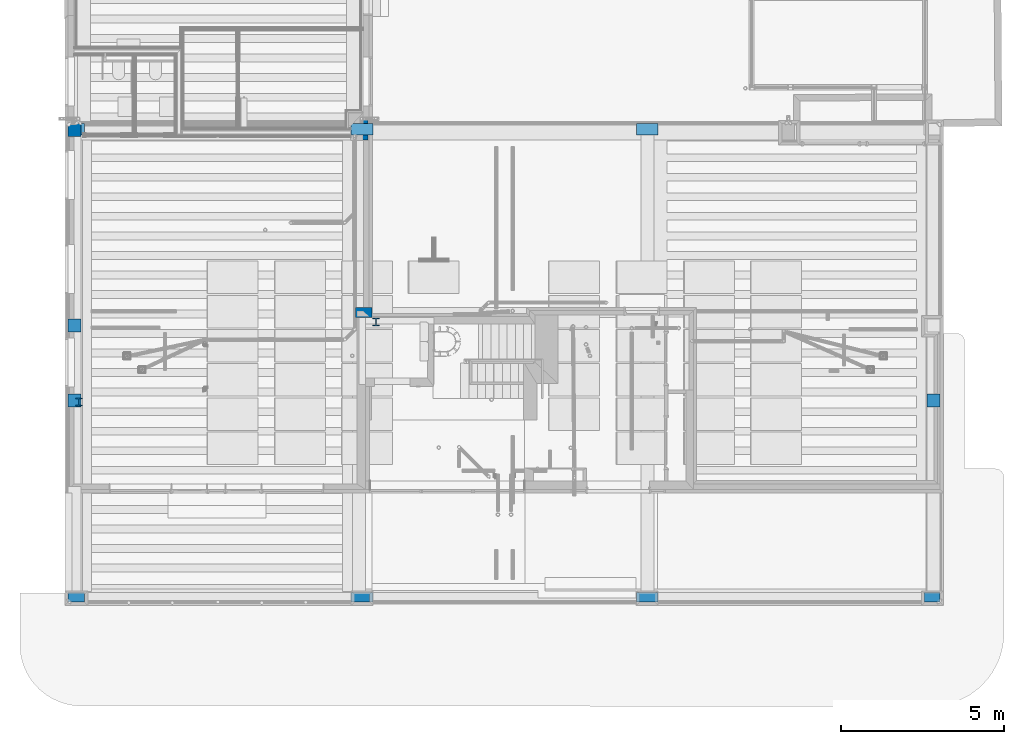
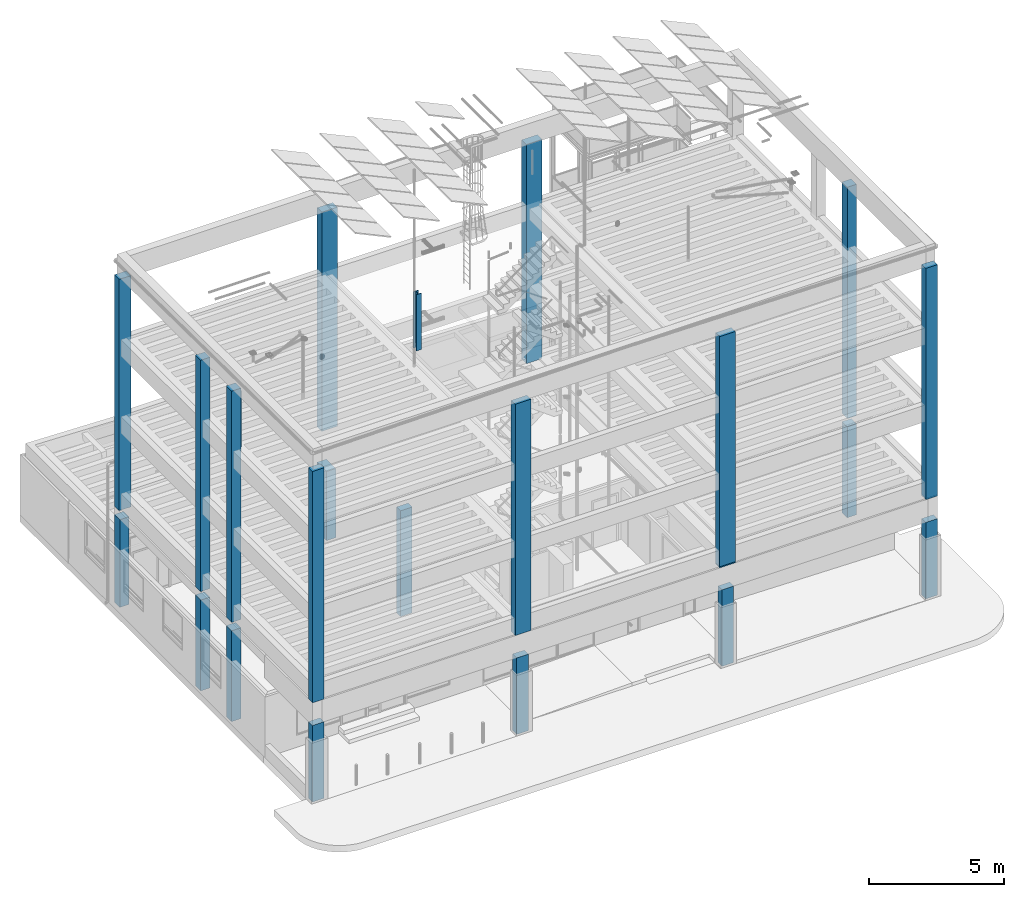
# One storey, part 1 of 108: 24 columns.
"""IFC2X3 building model written with IfcOpenShell, lengths in metres."""

from ifc_helpers import new_model, entity, si_unit, converted_unit, derived_unit, money_unit, direction, frame, frame_2d, origin_with_axes, place, context, subcontext, project, spatial, polyline, rectangle, outline, extrude, material, type_object, element, save


model = new_model("IFC2X3")

# Units and contexts
model_context = context("Model", 3, precision=1e-05, world=origin_with_axes(), true_north=direction((0.0, 1.0)))
body_context = subcontext(model_context, "Body", "Model", "MODEL_VIEW", scale=1.0)
ifc_project = project(units=[si_unit("LENGTHUNIT", "METRE"), si_unit("AREAUNIT", "SQUARE_METRE"), si_unit("VOLUMEUNIT", "CUBIC_METRE"), si_unit("ABSORBEDDOSEUNIT", "GRAY"), si_unit("AMOUNTOFSUBSTANCEUNIT", "MOLE"), si_unit("DOSEEQUIVALENTUNIT", "SIEVERT"), si_unit("ELECTRICCAPACITANCEUNIT", "FARAD"), si_unit("ELECTRICCHARGEUNIT", "COULOMB"), si_unit("ELECTRICCONDUCTANCEUNIT", "SIEMENS"), si_unit("ELECTRICCURRENTUNIT", "AMPERE"), si_unit("ELECTRICRESISTANCEUNIT", "OHM"), si_unit("ELECTRICVOLTAGEUNIT", "VOLT"), si_unit("ENERGYUNIT", "JOULE"), si_unit("FORCEUNIT", "NEWTON"), si_unit("FREQUENCYUNIT", "HERTZ"), si_unit("ILLUMINANCEUNIT", "LUX"), si_unit("INDUCTANCEUNIT", "HENRY"), si_unit("LUMINOUSFLUXUNIT", "LUMEN"), si_unit("LUMINOUSINTENSITYUNIT", "CANDELA"), si_unit("MAGNETICFLUXDENSITYUNIT", "TESLA"), si_unit("MAGNETICFLUXUNIT", "WEBER"), si_unit("MASSUNIT", "GRAM"), converted_unit("PLANEANGLEUNIT", "degree", entity("IfcReal", 0.0174532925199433), si_unit("PLANEANGLEUNIT", "RADIAN"), dimensions=[0, 0, 0, 0, 0, 0, 0]), si_unit("POWERUNIT", "WATT"), si_unit("PRESSUREUNIT", "PASCAL"), si_unit("RADIOACTIVITYUNIT", "BECQUEREL"), si_unit("SOLIDANGLEUNIT", "STERADIAN"), si_unit("THERMODYNAMICTEMPERATUREUNIT", "KELVIN"), si_unit("TIMEUNIT", "SECOND"), derived_unit("ACCELERATIONUNIT", [(si_unit("LENGTHUNIT", "METRE"), 1), (si_unit("TIMEUNIT", "SECOND"), -2)]), derived_unit("ANGULARVELOCITYUNIT", [(converted_unit("PLANEANGLEUNIT", "degree", entity("IfcReal", 0.0174532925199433), si_unit("PLANEANGLEUNIT", "RADIAN"), dimensions=[0, 0, 0, 0, 0, 0, 0]), 1), (si_unit("TIMEUNIT", "SECOND"), -1)]), derived_unit("CURVATUREUNIT", [(converted_unit("PLANEANGLEUNIT", "degree", entity("IfcReal", 0.0174532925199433), si_unit("PLANEANGLEUNIT", "RADIAN"), dimensions=[0, 0, 0, 0, 0, 0, 0]), 1), (si_unit("LENGTHUNIT", "METRE"), -1)]), derived_unit("DYNAMICVISCOSITYUNIT", [(si_unit("PRESSUREUNIT", "PASCAL"), 1), (si_unit("TIMEUNIT", "SECOND"), 1)]), derived_unit("HEATFLUXDENSITYUNIT", [(si_unit("POWERUNIT", "WATT"), 1), (si_unit("LENGTHUNIT", "METRE"), -2)]), derived_unit("HEATINGVALUEUNIT", [(si_unit("ENERGYUNIT", "JOULE"), 1), (si_unit("MASSUNIT", "GRAM"), -1)]), derived_unit("INTEGERCOUNTRATEUNIT", [(si_unit("TIMEUNIT", "SECOND"), -1)]), derived_unit("IONCONCENTRATIONUNIT", [(si_unit("MASSUNIT", "GRAM"), 1), (si_unit("VOLUMEUNIT", "CUBIC_METRE"), -1)]), derived_unit("ISOTHERMALMOISTURECAPACITYUNIT", [(si_unit("VOLUMEUNIT", "CUBIC_METRE"), 1), (si_unit("MASSUNIT", "GRAM"), -1)]), derived_unit("KINEMATICVISCOSITYUNIT", [(si_unit("AREAUNIT", "SQUARE_METRE"), 1), (si_unit("TIMEUNIT", "SECOND"), -1)]), derived_unit("LINEARFORCEUNIT", [(si_unit("FORCEUNIT", "NEWTON"), 1), (si_unit("LENGTHUNIT", "METRE"), -1)]), derived_unit("LINEARMOMENTUNIT", [(si_unit("FORCEUNIT", "NEWTON"), 1), (si_unit("LENGTHUNIT", "METRE"), -1)]), derived_unit("LINEARSTIFFNESSUNIT", [(si_unit("FORCEUNIT", "NEWTON"), 1), (si_unit("LENGTHUNIT", "METRE"), -1)]), derived_unit("LINEARVELOCITYUNIT", [(si_unit("LENGTHUNIT", "METRE"), 1), (si_unit("TIMEUNIT", "SECOND"), -1)]), derived_unit("LUMINOUSINTENSITYDISTRIBUTIONUNIT", [(si_unit("LUMINOUSINTENSITYUNIT", "CANDELA"), 1), (si_unit("LUMINOUSFLUXUNIT", "LUMEN"), -1)]), derived_unit("MASSDENSITYUNIT", [(si_unit("MASSUNIT", "GRAM"), 1), (si_unit("VOLUMEUNIT", "CUBIC_METRE"), -1)]), derived_unit("MASSFLOWRATEUNIT", [(si_unit("MASSUNIT", "GRAM"), 1), (si_unit("TIMEUNIT", "SECOND"), -1)]), derived_unit("MASSPERLENGTHUNIT", [(si_unit("MASSUNIT", "GRAM"), 1), (si_unit("LENGTHUNIT", "METRE"), -1)]), derived_unit("MODULUSOFELASTICITYUNIT", [(si_unit("FORCEUNIT", "NEWTON"), 1), (si_unit("AREAUNIT", "SQUARE_METRE"), -1)]), derived_unit("MODULUSOFLINEARSUBGRADEREACTIONUNIT", [(si_unit("FORCEUNIT", "NEWTON"), 1), (si_unit("LENGTHUNIT", "METRE"), -2)]), derived_unit("MODULUSOFROTATIONALSUBGRADEREACTIONUNIT", [(si_unit("FORCEUNIT", "NEWTON"), 1), (si_unit("LENGTHUNIT", "METRE"), 1)]), derived_unit("MODULUSOFSUBGRADEREACTIONUNIT", [(si_unit("FORCEUNIT", "NEWTON"), 1), (si_unit("VOLUMEUNIT", "CUBIC_METRE"), -1)]), derived_unit("MOISTUREDIFFUSIVITYUNIT", [(si_unit("VOLUMEUNIT", "CUBIC_METRE"), 1), (si_unit("TIMEUNIT", "SECOND"), -1)]), derived_unit("MOLECULARWEIGHTUNIT", [(si_unit("MASSUNIT", "GRAM"), 1), (si_unit("AMOUNTOFSUBSTANCEUNIT", "MOLE"), -1)]), derived_unit("PLANARFORCEUNIT", [(si_unit("FORCEUNIT", "NEWTON"), 1), (si_unit("LENGTHUNIT", "METRE"), -2)]), derived_unit("ROTATIONALFREQUENCYUNIT", [(si_unit("TIMEUNIT", "SECOND"), -1)]), derived_unit("ROTATIONALMASSUNIT", [(si_unit("MASSUNIT", "GRAM"), 1), (si_unit("LENGTHUNIT", "METRE"), 2)]), derived_unit("ROTATIONALSTIFFNESSUNIT", [(si_unit("FORCEUNIT", "NEWTON"), 1), (si_unit("LENGTHUNIT", "METRE"), 1), (converted_unit("PLANEANGLEUNIT", "degree", entity("IfcReal", 0.0174532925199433), si_unit("PLANEANGLEUNIT", "RADIAN"), dimensions=[0, 0, 0, 0, 0, 0, 0]), -1)]), derived_unit("SECTIONAREAINTEGRALUNIT", [(si_unit("LENGTHUNIT", "METRE"), 5)]), derived_unit("SECTIONMODULUSUNIT", [(si_unit("LENGTHUNIT", "METRE"), 3)]), derived_unit("SHEARMODULUSUNIT", [(si_unit("FORCEUNIT", "NEWTON"), 1), (si_unit("AREAUNIT", "SQUARE_METRE"), -1)]), derived_unit("SOUNDPOWERUNIT", [(si_unit("ENERGYUNIT", "JOULE"), 1), (si_unit("TIMEUNIT", "SECOND"), -1)]), derived_unit("SPECIFICHEATCAPACITYUNIT", [(si_unit("FORCEUNIT", "NEWTON"), 1), (si_unit("MASSUNIT", "GRAM"), -1), (si_unit("THERMODYNAMICTEMPERATUREUNIT", "KELVIN"), -1)]), derived_unit("TEMPERATUREGRADIENTUNIT", [(si_unit("THERMODYNAMICTEMPERATUREUNIT", "KELVIN"), 1), (si_unit("LENGTHUNIT", "METRE"), -1)]), derived_unit("THERMALADMITTANCEUNIT", [(si_unit("POWERUNIT", "WATT"), 1), (si_unit("AREAUNIT", "SQUARE_METRE"), -1), (si_unit("THERMODYNAMICTEMPERATUREUNIT", "KELVIN"), -1)]), derived_unit("THERMALCONDUCTANCEUNIT", [(si_unit("POWERUNIT", "WATT"), 1), (si_unit("LENGTHUNIT", "METRE"), -1), (si_unit("THERMODYNAMICTEMPERATUREUNIT", "KELVIN"), -1)]), derived_unit("THERMALEXPANSIONCOEFFICIENTUNIT", [(si_unit("THERMODYNAMICTEMPERATUREUNIT", "KELVIN"), -1)]), derived_unit("THERMALRESISTANCEUNIT", [(si_unit("AREAUNIT", "SQUARE_METRE"), 1), (si_unit("POWERUNIT", "WATT"), -1)]), derived_unit("THERMALTRANSMITTANCEUNIT", [(si_unit("POWERUNIT", "WATT"), 1), (si_unit("AREAUNIT", "SQUARE_METRE"), -1), (si_unit("THERMODYNAMICTEMPERATUREUNIT", "KELVIN"), -1)]), derived_unit("TORQUEUNIT", [(si_unit("FORCEUNIT", "NEWTON"), 1), (si_unit("LENGTHUNIT", "METRE"), 1)]), derived_unit("VAPORPERMEABILITYUNIT", [(si_unit("MASSUNIT", "GRAM"), 1), (si_unit("TIMEUNIT", "SECOND"), -1)]), derived_unit("VOLUMETRICFLOWRATEUNIT", [(si_unit("VOLUMEUNIT", "CUBIC_METRE"), 1), (si_unit("TIMEUNIT", "SECOND"), -1)]), derived_unit("WARPINGCONSTANTUNIT", [(si_unit("LENGTHUNIT", "METRE"), 6)]), derived_unit("WARPINGMOMENTUNIT", [(si_unit("FORCEUNIT", "NEWTON"), 1), (si_unit("LENGTHUNIT", "METRE"), 2)]), money_unit("GBP")], contexts=[model_context])

# Site, building, storey
site_placement = place(None, origin_with_axes())
site = spatial("IfcSite", under=ifc_project, at=site_placement, Name="Site", CompositionType="ELEMENT")
building_placement = place(site_placement, origin_with_axes())
building = spatial("IfcBuilding", under=site, at=building_placement, Name="Building01", CompositionType="ELEMENT")
storey_placement = place(building_placement, origin_with_axes())
storey = spatial("IfcBuildingStorey", under=building, at=storey_placement, Name="GF", CompositionType="ELEMENT", Elevation=0.0)

# Columns
ifc_material_1 = material(Name="A_BSUK_Columns_ReinforcedConcrete")
column_type_1 = type_object("IfcColumnType", Name="A-Columns-Concrete", PredefinedType="COLUMN")
column_1_placement = place(storey_placement, frame((0.1, 8.4, -0.145), z_axis=(0.0, 0.0, 1.0), x_axis=(1.0, 0.0, 0.0)))
element("IfcColumn", 1, at=column_1_placement, inside=storey, type_object=column_type_1, material=ifc_material_1, Name="A-Columns-Concrete", ObjectType="A-Columns-Concrete", context=body_context, shape_type="SweptSolid", body=[
    extrude(rectangle(XDim=0.4, YDim=0.4, at=frame_2d((0.2, 0.2), x_axis=(0.0, 1.0))), origin_with_axes(), (0.0, 0.0, 1.0), 4.115),
])
column_2_placement = place(storey_placement, frame((0.6, 14.45, 14.83), z_axis=(0.0, 0.0, -1.0), x_axis=(0.0, 1.0, 0.0)))
element("IfcColumn", 2, at=column_2_placement, inside=storey, type_object=column_type_1, material=ifc_material_1, Name="A-Columns-Concrete", ObjectType="A-Columns-Concrete", context=body_context, shape_type="SweptSolid", body=[
    extrude(rectangle(XDim=0.5, YDim=0.35, at=frame_2d((0.175, -0.25), x_axis=(0.0, -1.0))), origin_with_axes(), (0.0, 0.0, 1.0), 10.48),
])
for number, where, z_axis, x_axis, name in (
    (3, (0.1, 6.1, -0.145), (0.0, 0.0, 1.0), (1.0, 0.0, 0.0), "A-Columns-Concrete"),
    (4, (26.48, 6.1, -0.145), (0.0, 0.0, 1.0), (1.0, 0.0, 0.0), "A-Columns-Concrete"),
):
    element("IfcColumn", number, at=place(storey_placement, frame(where, z_axis=z_axis, x_axis=x_axis)), inside=storey, type_object=column_type_1, material=ifc_material_1, Name=name, ObjectType="A-Columns-Concrete", context=body_context, shape_type="SweptSolid", body=[
        extrude(rectangle(XDim=0.4, YDim=0.4, at=frame_2d((0.2, 0.2), x_axis=(0.0, 1.0))), origin_with_axes(), (0.0, 0.0, 1.0), 4.115),
    ])
column_3_placement = place(storey_placement, frame((0.6, 0.1, 3.32), z_axis=(0.0, 0.0, -1.0), x_axis=(0.0, 1.0, 0.0)))
element("IfcColumn", 5, at=column_3_placement, inside=storey, type_object=column_type_1, material=ifc_material_1, Name="A-Columns-Concrete", ObjectType="A-Columns-Concrete", context=body_context, shape_type="SweptSolid", body=[
    extrude(rectangle(XDim=0.5, YDim=0.3, at=frame_2d((0.15, -0.25), x_axis=(0.0, -1.0))), origin_with_axes(), (0.0, 0.0, 1.0), 3.465),
])
for number, where, z_axis, x_axis, name in (
    (6, (9.46, 14.8, 4.9), (0.0, 0.0, 1.0), (-1.0, 0.0, 0.0), "A-Columns-Concrete"),
    (7, (18.22, 14.8, 4.9), (0.0, 0.0, 1.0), (-1.0, 0.0, 0.0), "A-Columns-Concrete"),
):
    element("IfcColumn", number, at=place(storey_placement, frame(where, z_axis=z_axis, x_axis=x_axis)), inside=storey, type_object=column_type_1, material=ifc_material_1, Name=name, ObjectType="A-Columns-Concrete", context=body_context, shape_type="SweptSolid", body=[
        extrude(rectangle(XDim=0.35, YDim=0.67, at=frame_2d((0.335, 0.175), x_axis=(0.0, 1.0))), origin_with_axes(), (0.0, 0.0, 1.0), 9.93),
    ])
for number, where, z_axis, x_axis, name in (
    (8, (18.15, 0.1, 3.32), (0.0, 0.0, -1.0), (0.0, 1.0, 0.0), "A-Columns-Concrete"),
    (9, (9.35, 0.1, 3.32), (0.0, 0.0, -1.0), (0.0, 1.0, 0.0), "A-Columns-Concrete"),
    (10, (26.88, 0.1, 3.32), (0.0, 0.0, -1.0), (0.0, 1.0, 0.0), "A-Columns-Concrete"),
):
    element("IfcColumn", number, at=place(storey_placement, frame(where, z_axis=z_axis, x_axis=x_axis)), inside=storey, type_object=column_type_1, material=ifc_material_1, Name=name, ObjectType="A-Columns-Concrete", context=body_context, shape_type="SweptSolid", body=[
        extrude(rectangle(XDim=0.5, YDim=0.3, at=frame_2d((0.15, -0.25), x_axis=(0.0, -1.0))), origin_with_axes(), (0.0, 0.0, 1.0), 3.465),
    ])
column_4_placement = place(storey_placement, frame((8.903038, 14.299999, 0.0), z_axis=(0.0, 0.0, 1.0), x_axis=(1.0, 0.0, 0.0)))
element("IfcColumn", 11, at=column_4_placement, inside=storey, type_object=column_type_1, material=ifc_material_1, Name="A-Columns-Concrete", ObjectType="A-Columns-Concrete", context=body_context, shape_type="SweptSolid", body=[
    extrude(rectangle(XDim=0.7, YDim=0.4, at=frame_2d((0.2, 0.35), x_axis=(0.0, 1.0))), origin_with_axes(), (0.0, 0.0, 1.0), 3.135),
])
for number, where, z_axis, x_axis, name in (
    (12, (9.46, 0.4, 4.35), (0.0, 0.0, 1.0), (-1.0, 0.0, 0.0), "A-Columns-Concrete"),
    (13, (18.22, 0.4, 4.35), (0.0, 0.0, 1.0), (-1.0, 0.0, 0.0), "A-Columns-Concrete"),
):
    element("IfcColumn", number, at=place(storey_placement, frame(where, z_axis=z_axis, x_axis=x_axis)), inside=storey, type_object=column_type_1, material=ifc_material_1, Name=name, ObjectType="A-Columns-Concrete", context=body_context, shape_type="SweptSolid", body=[
        extrude(rectangle(XDim=0.3, YDim=0.67, at=frame_2d((0.335, 0.15), x_axis=(0.0, 1.0))), origin_with_axes(), (0.0, 0.0, 1.0), 10.48),
    ])
column_5_placement = place(storey_placement, frame((0.1, 14.4, 0.0), z_axis=(0.0, 0.0, 1.0), x_axis=(1.0, 0.0, 0.0)))
element("IfcColumn", 14, at=column_5_placement, inside=storey, type_object=column_type_1, material=ifc_material_1, Name="A-Columns-Concrete", ObjectType="A-Columns-Concrete", context=body_context, shape_type="SweptSolid", body=[
    extrude(rectangle(XDim=0.4, YDim=0.4, at=frame_2d((0.2, 0.2), x_axis=(0.0, 1.0))), origin_with_axes(), (0.0, 0.0, 1.0), 3.97),
])
placement = place(storey_placement, frame((26.88, 0.1, 14.83), z_axis=(0.0, 0.0, -1.0), x_axis=(0.0, 1.0, 0.0)))
element("IfcColumn", 15, at=placement, inside=storey, type_object=column_type_1, material=ifc_material_1, Name="A-Columns-Concrete", ObjectType="A-Columns-Concrete", context=body_context, shape_type="SweptSolid", body=[
    extrude(rectangle(XDim=0.5, YDim=0.3, at=frame_2d((0.15, -0.25), x_axis=(0.0, -1.0))), origin_with_axes(), (0.0, 0.0, 1.0), 10.48),
])
column_7_placement = place(storey_placement, frame((0.6, 0.1, 14.83), z_axis=(0.0, 0.0, -1.0), x_axis=(0.0, 1.0, 0.0)))
element("IfcColumn", 16, at=column_7_placement, inside=storey, type_object=column_type_1, material=ifc_material_1, Name="A-Columns-Concrete", ObjectType="A-Columns-Concrete", context=body_context, shape_type="SweptSolid", body=[
    extrude(rectangle(XDim=0.5, YDim=0.3, at=frame_2d((0.15, -0.25), x_axis=(0.0, -1.0))), origin_with_axes(), (0.0, 0.0, 1.0), 10.48),
])
for number, where, z_axis, x_axis, name in (
    (17, (0.1, 6.1, 4.35), (0.0, 0.0, 1.0), (1.0, 0.0, 0.0), "A-Columns-Concrete"),
    (18, (0.1, 8.4, 4.35), (0.0, 0.0, 1.0), (1.0, 0.0, 0.0), "A-Columns-Concrete"),
    (19, (26.48, 6.1, 4.35), (0.0, 0.0, 1.0), (1.0, 0.0, 0.0), "A-Columns-Concrete"),
):
    element("IfcColumn", number, at=place(storey_placement, frame(where, z_axis=z_axis, x_axis=x_axis)), inside=storey, type_object=column_type_1, material=ifc_material_1, Name=name, ObjectType="A-Columns-Concrete", context=body_context, shape_type="SweptSolid", body=[
        extrude(rectangle(XDim=0.4, YDim=0.4, at=frame_2d((0.2, 0.2), x_axis=(0.0, 1.0))), origin_with_axes(), (0.0, 0.0, 1.0), 10.48),
    ])
column_8_placement = place(storey_placement, frame((8.925, 9.147854, -0.145), z_axis=(0.0, 0.0, 1.0), x_axis=(0.0, -1.0, 0.0)))
element("IfcColumn", 20, at=column_8_placement, inside=storey, type_object=column_type_1, material=ifc_material_1, Name="A-Columns-Concrete", ObjectType="A-Columns-Concrete", context=body_context, shape_type="SweptSolid", body=[
    extrude(rectangle(XDim=0.5, YDim=0.3, at=frame_2d((0.15, 0.25), x_axis=(0.0, 1.0))), origin_with_axes(), (0.0, 0.0, 1.0), 4.795),
])
ifc_material_2 = material(Name="A_BSUK_Columns_Steel")
column_type_2 = type_object("IfcColumnType", Name="A-Columns:A_BSUK_Columns_Steel", PredefinedType="NOTDEFINED")
for number, where, z_axis, x_axis, name in (
    (21, (9.444748, 8.584054, 11.867478), (0.0, 0.0, 1.0), (1.0, 0.0, 0.0), "A-Columns--A_BSUK_Columns_Steel"),
    (22, (0.320001, 6.1293, 12.13), (0.0, 0.0, 1.0), (1.0, 0.0, 0.0), "A-Columns--A_BSUK_Columns_Steel"),
):
    element("IfcColumn", number, at=place(storey_placement, frame(where, z_axis=z_axis, x_axis=x_axis)), inside=storey, type_object=column_type_2, material=ifc_material_2, Name=name, ObjectType="A-Columns:A_BSUK_Columns_Steel", context=body_context, shape_type="SweptSolid", body=[
        extrude(outline(polyline([(0.2139, 0.0), (0.2139, 0.0301), (0.116, 0.0301), (0.116, 0.2113), (0.2139, 0.2113), (0.2139, 0.2414), (0.0, 0.2414), (0.0, 0.2113), (0.0979, 0.2113), (0.0979, 0.0301), (0.0, 0.0301), (0.0, 0.0), (0.2139, 0.0)])), origin_with_axes(), (0.0, 0.0, 1.0), 2.55),
    ])
column_type_3 = type_object("IfcColumnType", Name="A-Columns:A_BSUK_Columns_ReinforcedConcrete", PredefinedType="NOTDEFINED")
column_9_placement = place(storey_placement, frame((18.22, 0.4, 4.4), z_axis=(0.0, 0.0, 1.0), x_axis=(-1.0, 0.0, 0.0)))
element("IfcColumn", 23, at=column_9_placement, inside=storey, type_object=column_type_3, material=ifc_material_1, Name="A-Columns--A_BSUK_Columns_ReinforcedConcrete", ObjectType="A-Columns:A_BSUK_Columns_ReinforcedConcrete", context=body_context, shape_type="SweptSolid", body=[
    extrude(rectangle(XDim=0.3, YDim=0.67, at=frame_2d((0.335, 0.15), x_axis=(0.0, 1.0))), origin_with_axes(), (0.0, 0.0, 1.0), 10.43),
])
element("IfcColumn", 24, at=placement, inside=storey, type_object=column_type_3, material=ifc_material_1, Name="A-Columns--A_BSUK_Columns_ReinforcedConcrete", ObjectType="A-Columns:A_BSUK_Columns_ReinforcedConcrete", context=body_context, shape_type="SweptSolid", body=[
    extrude(rectangle(XDim=0.5, YDim=0.3, at=frame_2d((0.15, -0.25), x_axis=(0.0, -1.0))), origin_with_axes(), (0.0, 0.0, 1.0), 10.43),
])

save(model, "model.ifc")
